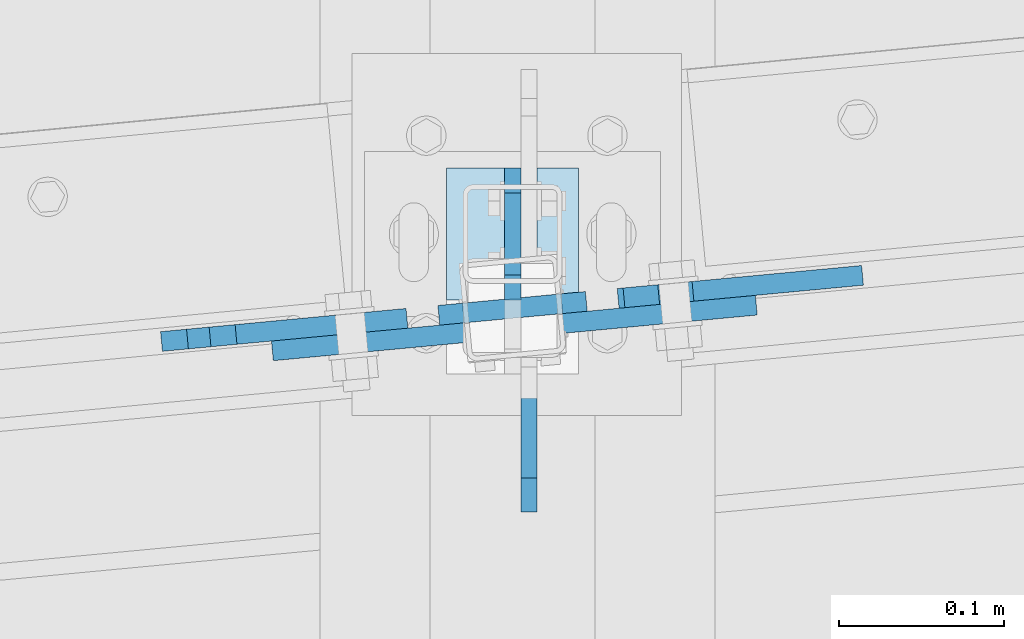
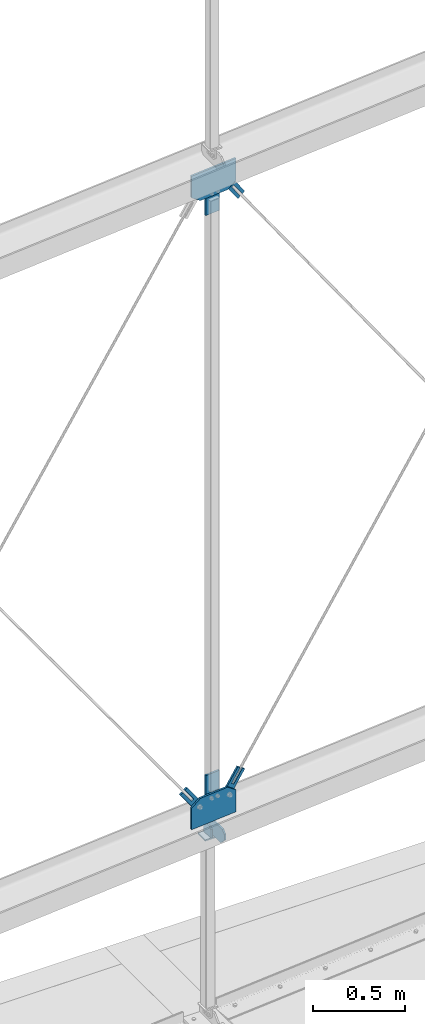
# One storey, part 181 of 271: 10 plates, 7 elements without a shape of their own.
"""IFC2X3 building model written with IfcOpenShell, lengths in millimetres."""

from ifc_helpers import new_model, si_unit, frame, origin_with_axes, place, context, subcontext, project, spatial, polyline, outline, extrude, material, type_object, element, aggregate, save


model = new_model("IFC2X3")

# Units and contexts
model_context = context("Model", 3, precision=1e-05, world=origin_with_axes())
body_context = subcontext(model_context, "Body", "Model", "MODEL_VIEW")
ifc_project = project(units=[si_unit("LENGTHUNIT", "METRE", prefix="MILLI"), si_unit("AREAUNIT", "SQUARE_METRE"), si_unit("VOLUMEUNIT", "CUBIC_METRE"), si_unit("MASSUNIT", "GRAM", prefix="KILO"), si_unit("TIMEUNIT", "SECOND"), si_unit("PLANEANGLEUNIT", "RADIAN"), si_unit("SOLIDANGLEUNIT", "STERADIAN"), si_unit("THERMODYNAMICTEMPERATUREUNIT", "DEGREE_CELSIUS"), si_unit("LUMINOUSINTENSITYUNIT", "LUMEN")], contexts=[model_context])

# Site, building, storey
site_placement = place(None, origin_with_axes())
site = spatial("IfcSite", under=ifc_project, at=site_placement, Name="Undefined", CompositionType="ELEMENT")
building_placement = place(site_placement, origin_with_axes())
building = spatial("IfcBuilding", under=site, at=building_placement, Name="Undefined", CompositionType="ELEMENT")
storey_placement = place(building_placement, origin_with_axes())
storey = spatial("IfcBuildingStorey", under=building, at=storey_placement, Name="Undefined", CompositionType="ELEMENT", Elevation=0.0)

# Assembly, plate
assembly_1_placement = place(storey_placement, origin_with_axes())
assembly_1 = element("IfcElementAssembly", 1, at=assembly_1_placement, inside=storey, AssemblyPlace="NOTDEFINED", PredefinedType="RIGID_FRAME")
ifc_material = material(Name="STEEL/S355JR")
plate_type_1 = type_object("IfcPlateType", Name="BL12*56", PredefinedType="NOTDEFINED")
plate_1_placement = place(assembly_1_placement, frame((9637.9752658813, 4015.453654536, 1471.38347793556), z_axis=(-0.0938759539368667, 0.995583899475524, 6.61630780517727e-05), x_axis=(-0.981354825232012, -0.092523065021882, -0.168470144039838)))
plate_1 = element("IfcPlate", 2, at=plate_1_placement, type_object=plate_type_1, material=ifc_material, Name="BLACHA", ObjectType="BL12*56", context=body_context, shape_type="SweptSolid", body=[
    extrude(outline(polyline([(0.0, 0.0), (21.2132034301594, 1.09139364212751e-11), (39.5644226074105, 18.3512210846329), (39.5644226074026, 39.5644226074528), (-87.0076904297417, 166.136535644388), (-100.796272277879, 152.347961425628), (-30.0855941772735, 81.6372756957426), (-42.0728530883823, 69.6500167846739), (-112.783531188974, 140.36070251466), (-126.57211303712, 126.57211303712), (0.0, 0.0)])), frame((0.0, 0.0, -6.0), z_axis=(0.0, 0.0, 1.0), x_axis=(1.0, 0.0, 0.0)), (0.0, 0.0, 1.0), 12.0),
])
aggregate(assembly_1, [plate_1])

assembly_2_placement = place(storey_placement, origin_with_axes())
assembly_2 = element("IfcElementAssembly", 3, at=assembly_2_placement, inside=storey, AssemblyPlace="NOTDEFINED", PredefinedType="RIGID_FRAME")
plate_2_placement = place(assembly_2_placement, frame((9464.23141786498, 3999.06239512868, 1502.28530759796), z_axis=(-0.0939661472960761, 0.995575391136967, 6.103120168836e-05), x_axis=(-0.162052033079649, -0.0152345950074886, -0.986664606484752)))
plate_2 = element("IfcPlate", 4, at=plate_2_placement, type_object=plate_type_1, material=ifc_material, Name="BLACHA", ObjectType="BL12*56", context=body_context, shape_type="SweptSolid", body=[
    extrude(outline(polyline([(0.0, 0.0), (21.2132034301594, 1.09139364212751e-11), (39.5650482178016, 18.3518447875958), (39.5650482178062, 39.5650482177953), (-87.0070800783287, 166.13714599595), (-100.795661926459, 152.348571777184), (-30.0849819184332, 81.6378936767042), (-42.0728530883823, 69.6500167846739), (-112.783531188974, 140.36070251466), (-126.57211303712, 126.57211303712), (0.0, 0.0)])), frame((0.0, 0.0, -6.0), z_axis=(0.0, 0.0, 1.0), x_axis=(1.0, 0.0, 0.0)), (0.0, 0.0, 1.0), 12.0),
])
aggregate(assembly_2, [plate_2])

assembly_3_placement = place(storey_placement, origin_with_axes())
assembly_3 = element("IfcElementAssembly", 5, at=assembly_3_placement, inside=storey, AssemblyPlace="NOTDEFINED", PredefinedType="RIGID_FRAME")
plate_3_placement = place(assembly_3_placement, frame((9592.51198469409, 4011.17964571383, 5544.98175085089), z_axis=(-0.093875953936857, 0.995583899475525, -6.61630780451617e-05), x_axis=(0.167720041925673, 0.0158802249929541, 0.985706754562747)))
plate_3 = element("IfcPlate", 6, at=plate_3_placement, type_object=plate_type_1, material=ifc_material, Name="BLACHA", ObjectType="BL12*56", context=body_context, shape_type="SweptSolid", body=[
    extrude(outline(polyline([(0.0, 0.0), (21.2132034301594, 1.09139364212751e-11), (39.564743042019, 18.3515396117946), (39.5647430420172, 39.5647430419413), (-87.0073471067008, 166.13687133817), (-100.795928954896, 152.348297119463), (-30.0852527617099, 81.637619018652), (-42.0728530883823, 69.6500167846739), (-112.783531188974, 140.36070251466), (-126.57211303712, 126.57211303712), (0.0, 0.0)])), frame((0.0, 0.0, -6.0), z_axis=(0.0, 0.0, 1.0), x_axis=(1.0, 0.0, 0.0)), (0.0, 0.0, 1.0), 12.0),
])
aggregate(assembly_3, [plate_3])

assembly_4_placement = place(storey_placement, origin_with_axes())
assembly_4 = element("IfcElementAssembly", 7, at=assembly_4_placement, inside=storey, AssemblyPlace="NOTDEFINED", PredefinedType="RIGID_FRAME")
plate_type_2 = type_object("IfcPlateType", Name="BL10*70", PredefinedType="NOTDEFINED")
plate_4_placement = place(assembly_4_placement, frame((9528.37568709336, 4010.32498425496, 1295.74999995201), z_axis=(-1.0, 0.0, 1.38777878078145e-17), x_axis=(0.0, 0.707106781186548, 0.707106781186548)))
plate_4 = element("IfcPlate", 8, at=plate_4_placement, type_object=plate_type_2, material=ifc_material, Name="BLACHA", ObjectType="BL10*70", context=body_context, shape_type="SweptSolid", body=[
    extrude(outline(polyline([(0.0, 0.0), (21.2132034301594, 1.09139364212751e-11), (56.5685424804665, 35.3553390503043), (56.568542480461, 56.5685424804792), (17.6776695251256, 95.4594192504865), (-38.890872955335, 38.8908729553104), (0.0, 0.0)])), frame((0.0, 0.0, -5.0), z_axis=(0.0, 0.0, 1.0), x_axis=(1.0, 0.0, 0.0)), (0.0, 0.0, 1.0), 10.0),
])

assembly_5_placement = place(storey_placement, origin_with_axes())
assembly_5 = element("IfcElementAssembly", 9, at=assembly_5_placement, inside=storey, AssemblyPlace="NOTDEFINED", PredefinedType="RIGID_FRAME")
plate_type_3 = type_object("IfcPlateType", Name="BL10*100", PredefinedType="NOTDEFINED")
plate_5_placement = place(assembly_5_placement, frame((9538.37568709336, 4130.45022579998, 1360.74999995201), z_axis=(-1.0, 0.0, 1.38777878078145e-17), x_axis=(0.0, 0.0, -1.0)))
plate_5 = element("IfcPlate", 10, at=plate_5_placement, type_object=plate_type_3, material=ifc_material, Name="BLACHA", ObjectType="BL10*100", context=body_context, shape_type="SweptSolid", body=[
    extrude(outline(polyline([(0.0, 20.7716979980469), (20.7716979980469, 8.17124146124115e-14), (60.0, 4.44089209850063e-13), (100.0, 40.0000000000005), (100.0, 209.16485595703), (60.0, 249.16485595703), (20.7716979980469, 249.16485595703), (0.0, 228.393157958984), (0.0, 20.7716979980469)])), frame((0.0, 0.0, -5.0), z_axis=(0.0, 0.0, 1.0), x_axis=(1.0, 0.0, 0.0)), (0.0, 0.0, 1.0), 10.0),
])

# Plate
plate_type_4 = type_object("IfcPlateType", Name="BL8*80", PredefinedType="NOTDEFINED")
plate_6_placement = place(assembly_4_placement, frame((9568.37568709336, 4010.32498425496, 1236.74999995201), z_axis=(0.0, 0.0, 1.0), x_axis=(0.0, 1.0, 0.0)))
plate_6 = element("IfcPlate", 11, at=plate_6_placement, type_object=plate_type_4, material=ifc_material, Name="BLACHA", ObjectType="BL8*80", context=body_context, shape_type="SweptSolid", body=[
    extrude(outline(polyline([(0.0, 0.0), (80.0, 0.0), (80.0, 80.0), (0.0, 80.0), (0.0, 0.0)])), frame((0.0, 0.0, -4.0), z_axis=(0.0, 0.0, 1.0), x_axis=(1.0, 0.0, 0.0)), (0.0, 0.0, 1.0), 8.0),
])

aggregate(assembly_4, [plate_6, plate_4])

# Assembly, plates
assembly_6_placement = place(storey_placement, origin_with_axes())
assembly_6 = element("IfcElementAssembly", 12, at=assembly_6_placement, inside=storey, AssemblyPlace="NOTDEFINED", PredefinedType="RIGID_FRAME")
plate_type_5 = type_object("IfcPlateType", Name="BL12*90", PredefinedType="NOTDEFINED")
plate_7_placement = place(assembly_6_placement, frame((9573.19690538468, 4009.33800990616, 1517.66148972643), z_axis=(-0.093922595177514, 0.99557950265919, 7.84095011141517e-15), x_axis=(-0.703981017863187, -0.0664133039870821, -0.707106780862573)))
plate_7 = element("IfcPlate", 13, at=plate_7_placement, type_object=plate_type_5, material=ifc_material, Name="BLACHA", ObjectType="BL12*90", context=body_context, shape_type="SweptSolid", body=[
    extrude(outline(polyline([(0.0, 0.0), (21.2132034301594, 1.09139364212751e-11), (63.6396102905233, 42.4264068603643), (63.6396102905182, 63.6396102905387), (-48.7903671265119, 176.069595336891), (-59.0431632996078, 165.816787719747), (-112.42997741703, 112.429977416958), (0.0, 0.0)])), frame((0.0, 0.0, -6.0), z_axis=(0.0, 0.0, 1.0), x_axis=(1.0, 0.0, 0.0)), (0.0, 0.0, 1.0), 12.0),
])
plate_8_placement = place(assembly_6_placement, frame((9483.59334940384, 4000.8998242, 5531.03738093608), z_axis=(-0.093922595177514, 0.99557950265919, 7.84095011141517e-15), x_axis=(0.703981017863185, 0.0664133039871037, 0.707106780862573)))
plate_8 = element("IfcPlate", 14, at=plate_8_placement, type_object=plate_type_5, material=ifc_material, Name="BLACHA", ObjectType="BL12*90", context=body_context, shape_type="SweptSolid", body=[
    extrude(outline(polyline([(0.0, 0.0), (21.2132034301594, 1.09139364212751e-11), (63.6396102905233, 42.4264068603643), (63.6396102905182, 63.6396102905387), (-48.7903671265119, 176.069595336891), (-59.0431632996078, 165.816787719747), (-112.42997741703, 112.429977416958), (0.0, 0.0)])), frame((0.0, 0.0, -6.0), z_axis=(0.0, 0.0, 1.0), x_axis=(1.0, 0.0, 0.0)), (0.0, 0.0, 1.0), 12.0),
])
aggregate(assembly_6, [plate_7, plate_8])

# Plate
plate_type_6 = type_object("IfcPlateType", Name="BL12*185", PredefinedType="NOTDEFINED")
plate_9_placement = place(assembly_5_placement, frame((9676.45147291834, 4007.02572540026, 1367.64999985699), z_axis=(-0.093922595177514, 0.99557950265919, 7.84095011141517e-15), x_axis=(-0.995579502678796, -0.0939225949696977, 0.0)))
plate_9 = element("IfcPlate", 15, at=plate_9_placement, type_object=plate_type_6, material=ifc_material, Name="BLACHA", ObjectType="BL12*185", context=body_context, shape_type="SweptSolid", body=[
    extrude(outline(polyline([(0.0, 0.0), (295.2567138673, 2.5465851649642e-11), (295.2567138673, 142.647445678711), (238.362762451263, 183.428329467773), (197.581893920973, 185.011474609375), (57.1288414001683, 185.011474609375), (1.2732925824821e-11, 144.560317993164), (0.0, 0.0)])), frame((0.0, 0.0, -6.0), z_axis=(0.0, 0.0, 1.0), x_axis=(1.0, 0.0, 0.0)), (0.0, 0.0, 1.0), 12.0),
])

aggregate(assembly_5, [plate_5, plate_9])

# Assembly, plate
assembly_7_placement = place(storey_placement, origin_with_axes())
assembly_7 = element("IfcElementAssembly", 16, at=assembly_7_placement, inside=storey, AssemblyPlace="NOTDEFINED", PredefinedType="RIGID_FRAME")
plate_10_placement = place(assembly_7_placement, frame((9382.50935106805, 3979.31031665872, 5681.04999995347), z_axis=(-0.093922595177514, 0.99557950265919, 7.84095011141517e-15), x_axis=(0.995579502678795, 0.0939225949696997, 0.0)))
plate_10 = element("IfcPlate", 17, at=plate_10_placement, type_object=plate_type_6, material=ifc_material, Name="BLACHA", ObjectType="BL12*185", context=body_context, shape_type="SweptSolid", body=[
    extrude(outline(polyline([(0.0, 0.0), (295.246643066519, 2.18278728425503e-11), (295.246643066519, 144.561477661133), (238.117813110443, 185.012619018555), (97.6631317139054, 185.012619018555), (56.9234199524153, 183.626281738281), (1.2732925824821e-11, 142.886566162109), (0.0, 0.0)])), frame((0.0, 0.0, -6.0), z_axis=(0.0, 0.0, 1.0), x_axis=(1.0, 0.0, 0.0)), (0.0, 0.0, 1.0), 12.0),
])
aggregate(assembly_7, [plate_10])

save(model, "model.ifc")
